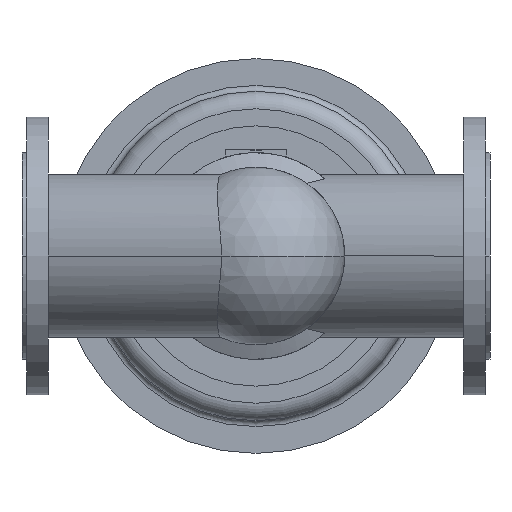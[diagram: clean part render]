
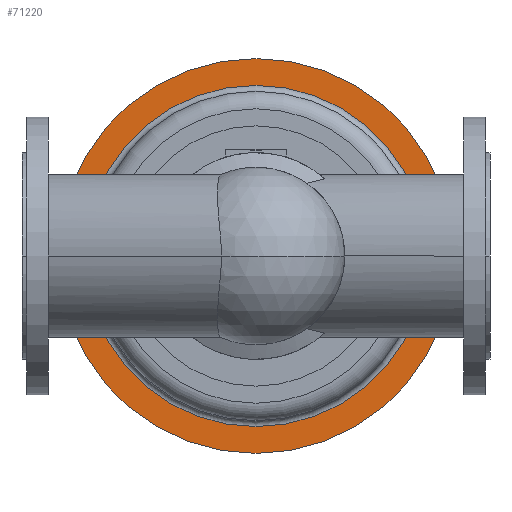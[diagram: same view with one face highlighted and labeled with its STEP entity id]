
A CAD part, front view. The second image highlights one B-rep face of the part: STEP entity #71220.
In plain terms, the highlighted planar face has unit normal (0, -1, 0).
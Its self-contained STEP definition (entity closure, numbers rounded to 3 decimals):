
#55920=CARTESIAN_POINT('',(37.5,981.2,0.));
#55930=VERTEX_POINT('',#55920);
#55960=CARTESIAN_POINT('',(240.,981.2,0.));
#55970=DIRECTION('',(0.,1.,0.));
#55980=DIRECTION('',(1.,0.,0.));
#55990=AXIS2_PLACEMENT_3D('',#55960,#55970,#55980);
#56000=CIRCLE('',#55990,202.5);
#56010=CARTESIAN_POINT('',(442.5,981.2,0.));
#56020=VERTEX_POINT('',#56010);
#56030=EDGE_CURVE('',#56020,#55930,#56000,.T.);
#56420=CARTESIAN_POINT('',(415.,981.2,0.));
#56430=VERTEX_POINT('',#56420);
#56460=CARTESIAN_POINT('',(240.,981.2,0.));
#56470=DIRECTION('',(0.,1.,0.));
#56480=DIRECTION('',(1.,0.,0.));
#56490=AXIS2_PLACEMENT_3D('',#56460,#56470,#56480);
#56500=CIRCLE('',#56490,175.);
#56510=CARTESIAN_POINT('',(65.,981.2,0.));
#56520=VERTEX_POINT('',#56510);
#56530=EDGE_CURVE('',#56430,#56520,#56500,.T.);
#71070=CARTESIAN_POINT('',(428.75,981.2,0.));
#71080=DIRECTION('',(0.,-1.,0.));
#71090=DIRECTION('',(-1.,0.,0.));
#71100=AXIS2_PLACEMENT_3D('',#71070,#71080,#71090);
#71110=PLANE('',#71100);
#71120=ORIENTED_EDGE('',*,*,#56030,.F.);
#71130=EDGE_CURVE('',#55930,#56020,#56000,.T.);
#71140=ORIENTED_EDGE('',*,*,#71130,.F.);
#71150=EDGE_LOOP('',(#71140,#71120));
#71160=FACE_OUTER_BOUND('',#71150,.T.);
#71170=ORIENTED_EDGE('',*,*,#56530,.T.);
#71180=EDGE_CURVE('',#56520,#56430,#56500,.T.);
#71190=ORIENTED_EDGE('',*,*,#71180,.T.);
#71200=EDGE_LOOP('',(#71190,#71170));
#71210=FACE_BOUND('',#71200,.T.);
#71220=ADVANCED_FACE('',(#71160,#71210),#71110,.T.);
